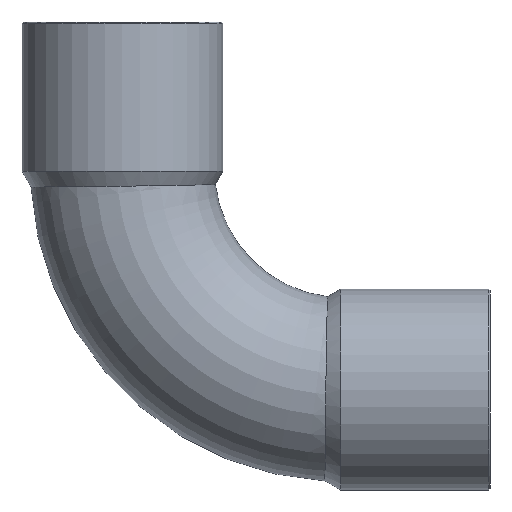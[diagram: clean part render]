
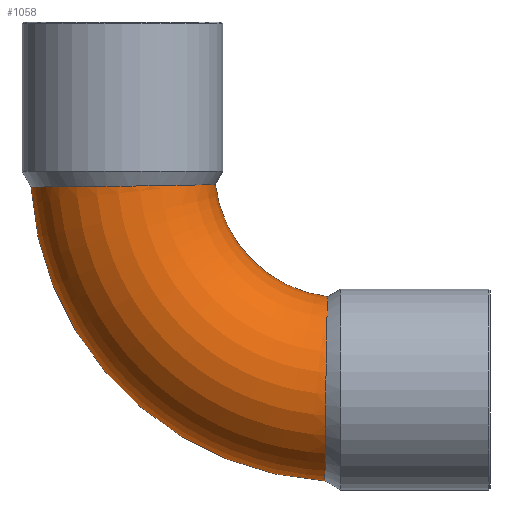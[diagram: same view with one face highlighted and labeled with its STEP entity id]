
A CAD part, front view. The second image highlights one B-rep face of the part: STEP entity #1058.
In plain terms, the highlighted toroidal (fillet/blend) face has major radius 18 mm and minor radius 7.5 mm.
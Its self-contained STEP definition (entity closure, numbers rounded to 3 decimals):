
#49=CARTESIAN_POINT('',(-3.422,0.,-1.474));
#50=VERTEX_POINT('',#49);
#51=CARTESIAN_POINT('',(20.561,0.,-25.457));
#52=VERTEX_POINT('',#51);
#53=CARTESIAN_POINT('',(22.035,0.,0.0));
#54=DIRECTION('',(0.0,-1.0,0.0));
#55=DIRECTION('',(0.0,0.0,-1.0));
#56=AXIS2_PLACEMENT_3D('',#53,#54,#55);
#57=CIRCLE('',#56,25.5);
#58=EDGE_CURVE('',#50,#52,#57,.T.);
#60=CARTESIAN_POINT('',(11.612,0.,-1.267));
#61=VERTEX_POINT('',#60);
#85=CARTESIAN_POINT('',(20.768,0.,-10.423));
#86=VERTEX_POINT('',#85);
#87=CARTESIAN_POINT('',(22.035,0.,0.0));
#88=DIRECTION('',(0.0,1.0,0.0));
#89=DIRECTION('',(0.0,0.0,-1.0));
#90=AXIS2_PLACEMENT_3D('',#87,#88,#89);
#91=CIRCLE('',#90,10.5);
#92=EDGE_CURVE('',#86,#61,#91,.T.);
#224=CARTESIAN_POINT('',(11.612,0.,-1.267));
#225=CARTESIAN_POINT('',(11.612,-0.064,-1.267));
#226=CARTESIAN_POINT('',(11.611,-0.128,-1.267));
#227=CARTESIAN_POINT('',(11.584,-1.166,-1.268));
#228=CARTESIAN_POINT('',(11.369,-2.126,-1.273));
#229=CARTESIAN_POINT('',(10.58,-3.914,-1.292));
#230=CARTESIAN_POINT('',(10.013,-4.723,-1.304));
#231=CARTESIAN_POINT('',(8.599,-6.081,-1.332));
#232=CARTESIAN_POINT('',(7.765,-6.615,-1.347));
#233=CARTESIAN_POINT('',(5.94,-7.335,-1.375));
#234=CARTESIAN_POINT('',(4.966,-7.513,-1.389));
#235=CARTESIAN_POINT('',(3.007,-7.486,-1.413));
#236=CARTESIAN_POINT('',(2.04,-7.281,-1.424));
#237=CARTESIAN_POINT('',(0.24,-6.514,-1.442));
#238=CARTESIAN_POINT('',(-0.576,-5.959,-1.45));
#239=CARTESIAN_POINT('',(-1.948,-4.569,-1.462));
#240=CARTESIAN_POINT('',(-2.491,-3.747,-1.466));
#241=CARTESIAN_POINT('',(-3.232,-1.942,-1.472));
#242=CARTESIAN_POINT('',(-3.422,-0.975,-1.474));
#243=CARTESIAN_POINT('',(-3.422,0.,-1.474));
#244=B_SPLINE_CURVE_WITH_KNOTS('',3,(#224,#225,#226,#227,#228,#229,#230,#231,#232,#233,#234,#235,#236,#237,#238,#239,#240,#241,#242,#243),.UNSPECIFIED.,.F.,.U.,(4,2,2,2,2,2,2,2,2,4),(-2.366,-2.347,-2.055,-1.761,-1.467,-1.172,-0.879,-0.585,-0.293,0.0),.UNSPECIFIED.);
#245=EDGE_CURVE('',#61,#50,#244,.T.);
#1025=CARTESIAN_POINT('',(22.035,0.,0.0));
#1026=DIRECTION('',(0.0,-1.0,0.0));
#1027=DIRECTION('',(0.0,0.0,-1.0));
#1028=AXIS2_PLACEMENT_3D('',#1025,#1026,#1027);
#1029=TOROIDAL_SURFACE('',#1028,18.0,7.5);
#1030=ORIENTED_EDGE('',*,*,#58,.T.);
#1031=CARTESIAN_POINT('',(20.561,0.,-25.457));
#1032=CARTESIAN_POINT('',(20.561,-0.553,-25.457));
#1033=CARTESIAN_POINT('',(20.562,-1.103,-25.396));
#1034=CARTESIAN_POINT('',(20.564,-2.182,-25.154));
#1035=CARTESIAN_POINT('',(20.565,-2.706,-24.974));
#1036=CARTESIAN_POINT('',(20.57,-4.088,-24.319));
#1037=CARTESIAN_POINT('',(20.575,-4.881,-23.733));
#1038=CARTESIAN_POINT('',(20.588,-6.199,-22.287));
#1039=CARTESIAN_POINT('',(20.596,-6.71,-21.442));
#1040=CARTESIAN_POINT('',(20.615,-7.381,-19.601));
#1041=CARTESIAN_POINT('',(20.627,-7.533,-18.623));
#1042=CARTESIAN_POINT('',(20.652,-7.454,-16.662));
#1043=CARTESIAN_POINT('',(20.666,-7.224,-15.699));
#1044=CARTESIAN_POINT('',(20.695,-6.407,-13.916));
#1045=CARTESIAN_POINT('',(20.709,-5.829,-13.114));
#1046=CARTESIAN_POINT('',(20.736,-4.402,-11.779));
#1047=CARTESIAN_POINT('',(20.748,-3.568,-11.258));
#1048=CARTESIAN_POINT('',(20.764,-1.808,-10.589));
#1049=CARTESIAN_POINT('',(20.768,-0.907,-10.423));
#1050=CARTESIAN_POINT('',(20.768,0.,-10.423));
#1051=B_SPLINE_CURVE_WITH_KNOTS('',3,(#1031,#1032,#1033,#1034,#1035,#1036,#1037,#1038,#1039,#1040,#1041,#1042,#1043,#1044,#1045,#1046,#1047,#1048,#1049,#1050),.UNSPECIFIED.,.F.,.U.,(4,2,2,2,2,2,2,2,2,4),(-4.732,-4.566,-4.4,-4.107,-3.814,-3.519,-3.225,-2.931,-2.639,-2.366),.UNSPECIFIED.);
#1052=EDGE_CURVE('',#52,#86,#1051,.T.);
#1053=ORIENTED_EDGE('',*,*,#1052,.T.);
#1054=ORIENTED_EDGE('',*,*,#92,.T.);
#1055=ORIENTED_EDGE('',*,*,#245,.T.);
#1056=EDGE_LOOP('',(#1030,#1053,#1054,#1055));
#1057=FACE_OUTER_BOUND('',#1056,.T.);
#1058=ADVANCED_FACE('',(#1057),#1029,.T.);
